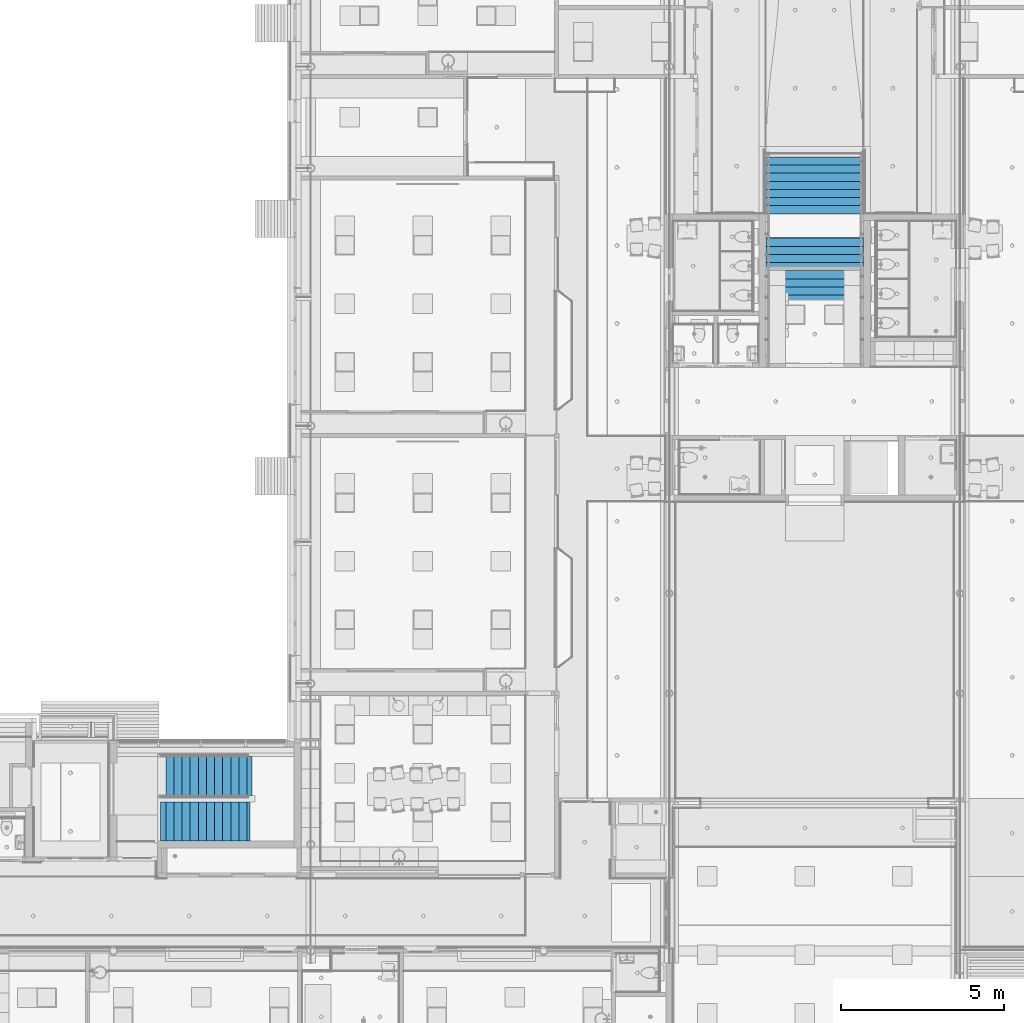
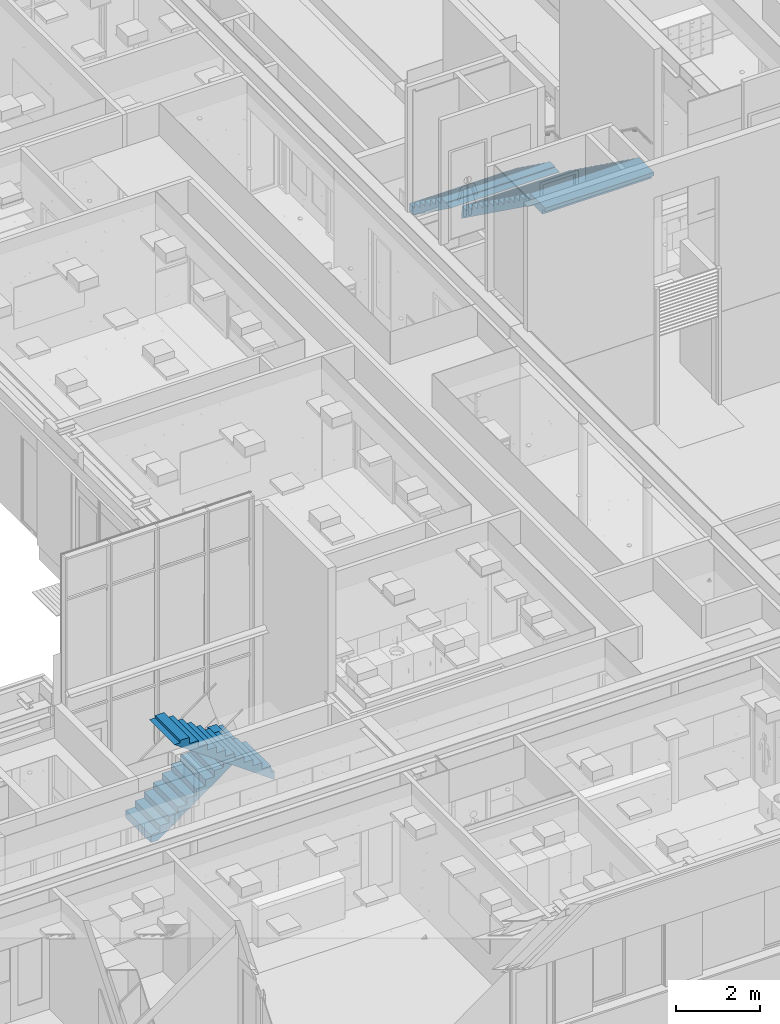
# One storey, part 86 of 347: 4 stair flights, 2 elements without a shape of their own.
"""IFC2X3 building model written with IfcOpenShell, lengths in millimetres."""

from ifc_helpers import new_model, entity, si_unit, converted_unit, derived_unit, money_unit, direction, frame, origin_with_axes, place, context, subcontext, project, spatial, faceted_brep, material, type_object, element, aggregate, save


model = new_model("IFC2X3")

# Units and contexts
model_context = context("Model", 3, precision=0.01, world=origin_with_axes(), true_north=direction((0.0, 1.0)))
plan_context = context("Plan", 3, precision=0.01, world=origin_with_axes(), true_north=direction((0.0, 1.0)))
body_context = subcontext(model_context, "Body", "Model", "MODEL_VIEW")
ifc_project = project(units=[si_unit("LENGTHUNIT", "METRE", prefix="MILLI"), si_unit("AREAUNIT", "SQUARE_METRE"), si_unit("VOLUMEUNIT", "CUBIC_METRE"), converted_unit("PLANEANGLEUNIT", "DEGREE", entity("IfcPlaneAngleMeasure", 0.0174532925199), si_unit("PLANEANGLEUNIT", "RADIAN"), dimensions=[0, 0, 0, 0, 0, 0, 0]), money_unit("EUR"), converted_unit("TIMEUNIT", "Year", entity("IfcTimeMeasure", 31556926.0), si_unit("TIMEUNIT", "SECOND"), dimensions=[0, 0, 1, 0, 0, 0, 0]), si_unit("MASSUNIT", "GRAM", prefix="KILO"), si_unit("THERMODYNAMICTEMPERATUREUNIT", "DEGREE_CELSIUS"), si_unit("LUMINOUSINTENSITYUNIT", "LUMEN"), si_unit("ENERGYUNIT", "JOULE", prefix="MEGA"), derived_unit("THERMALCONDUCTANCEUNIT", [(si_unit("POWERUNIT", "WATT"), 1), (si_unit("LENGTHUNIT", "METRE"), -1), (si_unit("THERMODYNAMICTEMPERATUREUNIT", "KELVIN"), -1)]), derived_unit("SPECIFICHEATCAPACITYUNIT", [(si_unit("ENERGYUNIT", "JOULE"), 1), (si_unit("MASSUNIT", "GRAM", prefix="KILO"), -1), (si_unit("THERMODYNAMICTEMPERATUREUNIT", "KELVIN"), -1)]), derived_unit("MASSDENSITYUNIT", [(si_unit("MASSUNIT", "GRAM", prefix="KILO"), 1), (si_unit("VOLUMEUNIT", "CUBIC_METRE"), -1)])], contexts=[model_context, plan_context])

# Site, building, storey
site_placement = place(None, origin_with_axes())
site = spatial("IfcSite", under=ifc_project, at=site_placement, Name="Site", CompositionType="ELEMENT")
building_placement = place(site_placement, origin_with_axes())
building = spatial("IfcBuilding", under=site, at=building_placement, Name="Naam gebouw", CompositionType="ELEMENT")
storey_placement = place(building_placement, origin_with_axes())
storey = spatial("IfcBuildingStorey", under=building, at=storey_placement, Name="begane grond", CompositionType="ELEMENT", Elevation=0.0)

# Stair, stair flights
stair_1_placement = place(storey_placement, frame((20115.0, 16900.0, 0.0), z_axis=(0.0, 0.0, 1.0), x_axis=(1.0, 0.0, 0.0)))
stair_1 = element("IfcStair", 1, at=stair_1_placement, inside=storey, Name="24_Trap-x", ShapeType="NOTDEFINED")
ifc_material = material(Name="Beton gewapend prefab")
stair_flight_type = type_object("IfcStairFlightType", Name="IfcStairFlight", PredefinedType="NOTDEFINED")
stair_flight_1_placement = place(stair_1_placement, origin_with_axes())
stair_flight_1 = element("IfcStairFlight", 2, at=stair_flight_1_placement, type_object=stair_flight_type, material=ifc_material, Name="24_Trapconstructie-x", context=body_context, shape_type="Brep", body=[
    faceted_brep([(2500.0, 0.0, 1730.0), (2500.0, 1200.0, 1730.0), (2500.0, 1200.0, 1800.0), (2500.0, 0.0, 1800.0), (2659.49314112, 0.0, 1730.0), (2659.49314112, 1200.0, 1730.0), (2500.0, 1200.0, 1615.16493839), (2416.66666667, 1200.0, 1555.16493839), (2333.33333333, 1200.0, 1495.16493839), (2250.0, 1200.0, 1435.16493839), (2166.66666667, 1200.0, 1375.16493839), (2083.33333333, 1200.0, 1315.16493839), (2000.0, 1200.0, 1255.16493839), (1916.66666667, 1200.0, 1195.16493839), (1833.33333333, 1200.0, 1135.16493839), (1750.0, 1200.0, 1075.16493839), (1666.66666667, 1200.0, 1015.16493839), (1583.33333333, 1200.0, 955.164938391), (1500.0, 1200.0, 895.164938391), (1416.66666667, 1200.0, 835.164938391), (1333.33333333, 1200.0, 775.164938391), (1250.0, 1200.0, 715.164938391), (1166.66666667, 1200.0, 655.164938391), (1083.33333333, 1200.0, 595.164938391), (1000.0, 1200.0, 535.164938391), (916.666666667, 1200.0, 475.164938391), (833.333333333, 1200.0, 415.164938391), (750.0, 1200.0, 355.164938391), (666.666666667, 1200.0, 295.164938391), (583.333333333, 1200.0, 235.164938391), (500.0, 1200.0, 175.164938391), (416.666666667, 1200.0, 115.164938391), (333.333333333, 1200.0, 55.164938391), (250.0, 1200.0, -4.83506160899), (187.270918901, 1200.0, -50.0), (0.0, 1200.0, -50.0), (0.0, 1200.0, 180.0), (250.0, 1200.0, 180.0), (250.0, 1200.0, 360.0), (500.0, 1200.0, 360.0), (500.0, 1200.0, 540.0), (750.0, 1200.0, 540.0), (750.0, 1200.0, 720.0), (1000.0, 1200.0, 720.0), (1000.0, 1200.0, 900.0), (1250.0, 1200.0, 900.0), (1250.0, 1200.0, 1080.0), (1500.0, 1200.0, 1080.0), (1500.0, 1200.0, 1260.0), (1750.0, 1200.0, 1260.0), (1750.0, 1200.0, 1440.0), (2000.0, 1200.0, 1440.0), (2000.0, 1200.0, 1620.0), (2250.0, 1200.0, 1620.0), (2250.0, 1200.0, 1800.0), (2250.0, 0.0, 1800.0), (2250.0, 0.0, 1620.0), (2000.0, 0.0, 1620.0), (2000.0, 0.0, 1440.0), (1750.0, 0.0, 1440.0), (1750.0, 0.0, 1260.0), (1500.0, 0.0, 1260.0), (1500.0, 0.0, 1080.0), (1250.0, 0.0, 1080.0), (1250.0, 0.0, 900.0), (1000.0, 0.0, 900.0), (1000.0, 0.0, 720.0), (750.0, 0.0, 720.0), (750.0, 0.0, 540.0), (500.0, 0.0, 540.0), (500.0, 0.0, 360.0), (250.0, 0.0, 360.0), (250.0, 0.0, 180.0), (0.0, 0.0, 180.0), (0.0, 0.0, -50.0), (187.270918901, 0.0, -50.0), (250.0, 0.0, -4.83506160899), (333.333333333, 0.0, 55.164938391), (416.666666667, 0.0, 115.164938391), (500.0, 0.0, 175.164938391), (583.333333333, 0.0, 235.164938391), (666.666666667, 0.0, 295.164938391), (750.0, 0.0, 355.164938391), (833.333333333, 0.0, 415.164938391), (916.666666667, 0.0, 475.164938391), (1000.0, 0.0, 535.164938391), (1083.33333333, 0.0, 595.164938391), (1166.66666667, 0.0, 655.164938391), (1250.0, 0.0, 715.164938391), (1333.33333333, 0.0, 775.164938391), (1416.66666667, 0.0, 835.164938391), (1500.0, 0.0, 895.164938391), (1583.33333333, 0.0, 955.164938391), (1666.66666667, 0.0, 1015.16493839), (1750.0, 0.0, 1075.16493839), (1833.33333333, 0.0, 1135.16493839), (1916.66666667, 0.0, 1195.16493839), (2000.0, 0.0, 1255.16493839), (2083.33333333, 0.0, 1315.16493839), (2166.66666667, 0.0, 1375.16493839), (2250.0, 0.0, 1435.16493839), (2333.33333333, 0.0, 1495.16493839), (2416.66666667, 0.0, 1555.16493839), (2500.0, 0.0, 1615.16493839)], [[[0, 1, 2, 3]], [[1, 0, 4, 5]], [[6, 7, 8, 9, 10, 11, 12, 13, 14, 15, 16, 17, 18, 19, 20, 21, 22, 23, 24, 25, 26, 27, 28, 29, 30, 31, 32, 33, 34, 35, 36, 37, 38, 39, 40, 41, 42, 43, 44, 45, 46, 47, 48, 49, 50, 51, 52, 53, 54, 2, 1, 5]], [[55, 3, 2, 54]], [[0, 3, 55, 56, 57, 58, 59, 60, 61, 62, 63, 64, 65, 66, 67, 68, 69, 70, 71, 72, 73, 74, 75, 76, 77, 78, 79, 80, 81, 82, 83, 84, 85, 86, 87, 88, 89, 90, 91, 92, 93, 94, 95, 96, 97, 98, 99, 100, 101, 102, 103, 4]], [[103, 102, 7, 6, 5, 4]], [[101, 8, 7, 102]], [[100, 9, 8, 101]], [[99, 10, 9, 100]], [[98, 11, 10, 99]], [[97, 12, 11, 98]], [[96, 13, 12, 97]], [[95, 14, 13, 96]], [[94, 15, 14, 95]], [[93, 16, 15, 94]], [[92, 17, 16, 93]], [[91, 18, 17, 92]], [[90, 19, 18, 91]], [[89, 20, 19, 90]], [[88, 21, 20, 89]], [[87, 22, 21, 88]], [[86, 23, 22, 87]], [[85, 24, 23, 86]], [[84, 25, 24, 85]], [[83, 26, 25, 84]], [[82, 27, 26, 83]], [[81, 28, 27, 82]], [[80, 29, 28, 81]], [[79, 30, 29, 80]], [[78, 31, 30, 79]], [[77, 32, 31, 78]], [[76, 33, 32, 77]], [[75, 34, 33, 76]], [[74, 35, 34, 75]], [[35, 74, 73, 36]], [[36, 73, 72, 37]], [[71, 38, 37, 72]], [[38, 71, 70, 39]], [[69, 40, 39, 70]], [[40, 69, 68, 41]], [[67, 42, 41, 68]], [[42, 67, 66, 43]], [[65, 44, 43, 66]], [[44, 65, 64, 45]], [[63, 46, 45, 64]], [[46, 63, 62, 47]], [[61, 48, 47, 62]], [[48, 61, 60, 49]], [[59, 50, 49, 60]], [[50, 59, 58, 51]], [[57, 52, 51, 58]], [[52, 57, 56, 53]], [[55, 54, 53, 56]]]),
])
stair_flight_2_placement = place(stair_1_placement, origin_with_axes())
stair_flight_2 = element("IfcStairFlight", 3, at=stair_flight_2_placement, type_object=stair_flight_type, material=ifc_material, Name="24_Trapconstructie-x", context=body_context, shape_type="Brep", body=[
    faceted_brep([(0.0, -200.0, 3710.0), (-2.86102519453e-06, -1400.0, 3710.0), (-2.86102519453e-06, -1400.0, 3780.0), (0.0, -200.0, 3780.0), (-159.493141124, -199.99999962, 3710.0), (-159.493143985, -1399.99999962, 3710.0), (-2.86102497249e-06, -1400.0, 3595.16493839), (83.3333304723, -1400.0000002, 3535.16493839), (166.666663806, -1400.0000004, 3475.16493839), (249.999997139, -1400.0000006, 3415.16493839), (333.333330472, -1400.00000079, 3355.16493839), (416.666663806, -1400.00000099, 3295.16493839), (499.999997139, -1400.00000119, 3235.16493839), (583.333330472, -1400.00000139, 3175.16493839), (666.666663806, -1400.00000159, 3115.16493839), (749.999997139, -1400.00000179, 3055.16493839), (833.333330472, -1400.00000199, 2995.16493839), (916.666663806, -1400.00000219, 2935.16493839), (999.999997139, -1400.00000238, 2875.16493839), (1083.33333047, -1400.00000258, 2815.16493839), (1166.66666381, -1400.00000278, 2755.16493839), (1249.99999714, -1400.00000298, 2695.16493839), (1333.33333047, -1400.00000318, 2635.16493839), (1416.66666381, -1400.00000338, 2575.16493839), (1499.99999714, -1400.00000358, 2515.16493839), (1583.33333047, -1400.00000377, 2455.16493839), (1666.66666381, -1400.00000397, 2395.16493839), (1749.99999714, -1400.00000417, 2335.16493839), (1833.33333047, -1400.00000437, 2275.16493839), (1916.66666381, -1400.00000457, 2215.16493839), (1999.99999714, -1400.00000477, 2155.16493839), (2083.33333047, -1400.00000497, 2095.16493839), (2166.66666381, -1400.00000517, 2035.16493839), (2249.99999714, -1400.00000536, 1975.16493839), (2333.33333047, -1400.00000556, 1915.16493839), (2416.66666381, -1400.00000576, 1855.16493839), (2499.99999714, -1400.00000596, 1795.16493839), (2590.50685602, -1400.00000618, 1730.0), (2590.50685602, -1400.00000618, 1980.0), (2499.99999714, -1400.00000596, 1980.0), (2499.99999714, -1400.00000596, 2160.0), (2249.99999714, -1400.00000536, 2160.0), (2249.99999714, -1400.00000536, 2340.0), (1999.99999714, -1400.00000477, 2340.0), (1999.99999714, -1400.00000477, 2520.0), (1749.99999714, -1400.00000417, 2520.0), (1749.99999714, -1400.00000417, 2700.0), (1499.99999714, -1400.00000358, 2700.0), (1499.99999714, -1400.00000358, 2880.0), (1249.99999714, -1400.00000298, 2880.0), (1249.99999714, -1400.00000298, 3060.0), (999.999997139, -1400.00000238, 3060.0), (999.999997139, -1400.00000238, 3240.0), (749.999997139, -1400.00000179, 3240.0), (749.999997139, -1400.00000179, 3420.0), (499.999997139, -1400.00000119, 3420.0), (499.999997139, -1400.00000119, 3600.0), (249.999997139, -1400.0000006, 3600.0), (249.999997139, -1400.0000006, 3780.0), (250.0, -200.000000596, 3780.0), (250.0, -200.000000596, 3600.0), (500.0, -200.000001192, 3600.0), (500.0, -200.000001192, 3420.0), (750.0, -200.000001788, 3420.0), (750.0, -200.000001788, 3240.0), (1000.0, -200.000002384, 3240.0), (1000.0, -200.000002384, 3060.0), (1250.0, -200.00000298, 3060.0), (1250.0, -200.00000298, 2880.0), (1500.0, -200.000003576, 2880.0), (1500.0, -200.000003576, 2700.0), (1750.0, -200.000004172, 2700.0), (1750.0, -200.000004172, 2520.0), (2000.0, -200.000004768, 2520.0), (2000.0, -200.000004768, 2340.0), (2250.0, -200.000005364, 2340.0), (2250.0, -200.000005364, 2160.0), (2500.0, -200.00000596, 2160.0), (2500.0, -200.00000596, 1980.0), (2590.50685888, -200.000006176, 1980.0), (2590.50685888, -200.000006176, 1730.0), (2500.0, -200.00000596, 1795.16493839), (2416.66666667, -200.000005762, 1855.16493839), (2333.33333333, -200.000005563, 1915.16493839), (2250.0, -200.000005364, 1975.16493839), (2166.66666667, -200.000005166, 2035.16493839), (2083.33333333, -200.000004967, 2095.16493839), (2000.0, -200.000004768, 2155.16493839), (1916.66666667, -200.00000457, 2215.16493839), (1833.33333333, -200.000004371, 2275.16493839), (1750.0, -200.000004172, 2335.16493839), (1666.66666667, -200.000003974, 2395.16493839), (1583.33333333, -200.000003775, 2455.16493839), (1500.0, -200.000003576, 2515.16493839), (1416.66666667, -200.000003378, 2575.16493839), (1333.33333333, -200.000003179, 2635.16493839), (1250.0, -200.00000298, 2695.16493839), (1166.66666667, -200.000002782, 2755.16493839), (1083.33333333, -200.000002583, 2815.16493839), (1000.0, -200.000002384, 2875.16493839), (916.666666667, -200.000002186, 2935.16493839), (833.333333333, -200.000001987, 2995.16493839), (750.0, -200.000001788, 3055.16493839), (666.666666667, -200.000001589, 3115.16493839), (583.333333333, -200.000001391, 3175.16493839), (500.0, -200.000001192, 3235.16493839), (416.666666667, -200.000000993, 3295.16493839), (333.333333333, -200.000000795, 3355.16493839), (250.0, -200.000000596, 3415.16493839), (166.666666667, -200.000000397, 3475.16493839), (83.3333333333, -200.000000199, 3535.16493839), (0.0, -200.0, 3595.16493839)], [[[0, 1, 2, 3]], [[1, 0, 4, 5]], [[6, 7, 8, 9, 10, 11, 12, 13, 14, 15, 16, 17, 18, 19, 20, 21, 22, 23, 24, 25, 26, 27, 28, 29, 30, 31, 32, 33, 34, 35, 36, 37, 38, 39, 40, 41, 42, 43, 44, 45, 46, 47, 48, 49, 50, 51, 52, 53, 54, 55, 56, 57, 58, 2, 1, 5]], [[58, 59, 3, 2]], [[0, 3, 59, 60, 61, 62, 63, 64, 65, 66, 67, 68, 69, 70, 71, 72, 73, 74, 75, 76, 77, 78, 79, 80, 81, 82, 83, 84, 85, 86, 87, 88, 89, 90, 91, 92, 93, 94, 95, 96, 97, 98, 99, 100, 101, 102, 103, 104, 105, 106, 107, 108, 109, 110, 111, 4]], [[111, 110, 7, 6, 5, 4]], [[8, 7, 110, 109]], [[9, 8, 109, 108]], [[10, 9, 108, 107]], [[11, 10, 107, 106]], [[12, 11, 106, 105]], [[13, 12, 105, 104]], [[14, 13, 104, 103]], [[15, 14, 103, 102]], [[16, 15, 102, 101]], [[17, 16, 101, 100]], [[18, 17, 100, 99]], [[19, 18, 99, 98]], [[20, 19, 98, 97]], [[21, 20, 97, 96]], [[22, 21, 96, 95]], [[23, 22, 95, 94]], [[24, 23, 94, 93]], [[25, 24, 93, 92]], [[26, 25, 92, 91]], [[27, 26, 91, 90]], [[28, 27, 90, 89]], [[29, 28, 89, 88]], [[30, 29, 88, 87]], [[31, 30, 87, 86]], [[32, 31, 86, 85]], [[33, 32, 85, 84]], [[34, 33, 84, 83]], [[35, 34, 83, 82]], [[82, 81, 36, 35]], [[37, 36, 81, 80]], [[37, 80, 79, 38]], [[79, 78, 39, 38]], [[40, 39, 78, 77]], [[41, 40, 77, 76]], [[76, 75, 42, 41]], [[43, 42, 75, 74]], [[74, 73, 44, 43]], [[45, 44, 73, 72]], [[72, 71, 46, 45]], [[47, 46, 71, 70]], [[70, 69, 48, 47]], [[49, 48, 69, 68]], [[68, 67, 50, 49]], [[51, 50, 67, 66]], [[66, 65, 52, 51]], [[53, 52, 65, 64]], [[64, 63, 54, 53]], [[55, 54, 63, 62]], [[62, 61, 56, 55]], [[57, 56, 61, 60]], [[60, 59, 58, 57]]]),
])
aggregate(stair_1, [stair_flight_1, stair_flight_2])

stair_2_placement = place(storey_placement, frame((40075.0, 36550.0, 0.0), z_axis=(0.0, 0.0, 1.0), x_axis=(1.0, 0.0, 0.0)))
stair_2 = element("IfcStair", 4, at=stair_2_placement, inside=storey, Name="24_Trap-x", ShapeType="NOTDEFINED")
stair_flight_3_placement = place(stair_2_placement, origin_with_axes())
stair_flight_3 = element("IfcStairFlight", 5, at=stair_flight_3_placement, type_object=stair_flight_type, material=ifc_material, Name="24_Trapconstructie-x", context=body_context, shape_type="Brep", body=[
    faceted_brep([(-1500.0, -1750.0, 1240.0), (1500.0, -1750.0, 1240.0), (1500.0, -1750.0, 1260.0), (-1500.0, -1750.0, 1260.0), (-1500.0, -1978.93758557, 1240.0), (1500.0, -1978.93758557, 1240.0), (1500.0, -1750.0, 1075.16493839), (1500.0, -1666.66666667, 1015.16493839), (1500.0, -1583.33333333, 955.164938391), (1500.0, -1500.0, 895.164938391), (1500.0, -1416.66666667, 835.164938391), (1500.0, -1333.33333333, 775.164938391), (1500.0, -1250.0, 715.164938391), (1500.0, -1166.66666667, 655.164938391), (1500.0, -1083.33333333, 595.164938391), (1500.0, -1000.0, 535.164938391), (1500.0, -916.666666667, 475.164938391), (1500.0, -833.333333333, 415.164938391), (1500.0, -750.0, 355.164938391), (1500.0, -666.666666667, 295.164938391), (1500.0, -583.333333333, 235.164938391), (1500.0, -500.0, 175.164938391), (1500.0, -416.666666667, 115.164938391), (1500.0, -333.333333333, 55.164938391), (1500.0, -250.0, -4.83506160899), (1500.0, -187.270918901, -50.0), (1500.0, 0.0, -50.0), (1500.0, 0.0, 180.0), (1500.0, -250.0, 180.0), (1500.0, -250.0, 360.0), (1500.0, -500.0, 360.0), (1500.0, -500.0, 540.0), (1500.0, -750.0, 540.0), (1500.0, -750.0, 720.0), (1500.0, -1000.0, 720.0), (1500.0, -1000.0, 900.0), (1500.0, -1250.0, 900.0), (1500.0, -1250.0, 1080.0), (1500.0, -1500.0, 1080.0), (1500.0, -1500.0, 1260.0), (-1500.0, -1500.0, 1260.0), (-1500.0, -1500.0, 1080.0), (-1500.0, -1250.0, 1080.0), (-1500.0, -1250.0, 900.0), (-1500.0, -1000.0, 900.0), (-1500.0, -1000.0, 720.0), (-1500.0, -750.0, 720.0), (-1500.0, -750.0, 540.0), (-1500.0, -500.0, 540.0), (-1500.0, -500.0, 360.0), (-1500.0, -250.0, 360.0), (-1500.0, -250.0, 180.0), (-1500.0, 0.0, 180.0), (-1500.0, 0.0, -50.0), (-1500.0, -187.270918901, -50.0), (-1500.0, -250.0, -4.83506160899), (-1500.0, -333.333333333, 55.164938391), (-1500.0, -416.666666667, 115.164938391), (-1500.0, -500.0, 175.164938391), (-1500.0, -583.333333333, 235.164938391), (-1500.0, -666.666666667, 295.164938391), (-1500.0, -750.0, 355.164938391), (-1500.0, -833.333333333, 415.164938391), (-1500.0, -916.666666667, 475.164938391), (-1500.0, -1000.0, 535.164938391), (-1500.0, -1083.33333333, 595.164938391), (-1500.0, -1166.66666667, 655.164938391), (-1500.0, -1250.0, 715.164938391), (-1500.0, -1333.33333333, 775.164938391), (-1500.0, -1416.66666667, 835.164938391), (-1500.0, -1500.0, 895.164938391), (-1500.0, -1583.33333333, 955.164938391), (-1500.0, -1666.66666667, 1015.16493839), (-1500.0, -1750.0, 1075.16493839)], [[[0, 1, 2, 3]], [[1, 0, 4, 5]], [[6, 7, 8, 9, 10, 11, 12, 13, 14, 15, 16, 17, 18, 19, 20, 21, 22, 23, 24, 25, 26, 27, 28, 29, 30, 31, 32, 33, 34, 35, 36, 37, 38, 39, 2, 1, 5]], [[40, 3, 2, 39]], [[0, 3, 40, 41, 42, 43, 44, 45, 46, 47, 48, 49, 50, 51, 52, 53, 54, 55, 56, 57, 58, 59, 60, 61, 62, 63, 64, 65, 66, 67, 68, 69, 70, 71, 72, 73, 4]], [[73, 72, 7, 6, 5, 4]], [[71, 8, 7, 72]], [[70, 9, 8, 71]], [[69, 10, 9, 70]], [[68, 11, 10, 69]], [[67, 12, 11, 68]], [[66, 13, 12, 67]], [[65, 14, 13, 66]], [[64, 15, 14, 65]], [[63, 16, 15, 64]], [[62, 17, 16, 63]], [[61, 18, 17, 62]], [[60, 19, 18, 61]], [[59, 20, 19, 60]], [[58, 21, 20, 59]], [[57, 22, 21, 58]], [[56, 23, 22, 57]], [[55, 24, 23, 56]], [[54, 25, 24, 55]], [[53, 26, 25, 54]], [[26, 53, 52, 27]], [[27, 52, 51, 28]], [[50, 29, 28, 51]], [[29, 50, 49, 30]], [[48, 31, 30, 49]], [[31, 48, 47, 32]], [[46, 33, 32, 47]], [[33, 46, 45, 34]], [[44, 35, 34, 45]], [[35, 44, 43, 36]], [[42, 37, 36, 43]], [[37, 42, 41, 38]], [[40, 39, 38, 41]]]),
])
stair_flight_4_placement = place(stair_2_placement, origin_with_axes())
stair_flight_4 = element("IfcStairFlight", 6, at=stair_flight_4_placement, type_object=stair_flight_type, material=ifc_material, Name="24_Trapconstructie-x", context=body_context, shape_type="Brep", body=[
    faceted_brep([(1500.0, -6350.0, 3860.0), (1500.0, -6350.0, 3710.0), (1500.0, -5909.49314112, 3710.0), (1500.0, -5833.33333333, 3655.16493839), (1500.0, -5750.0, 3595.16493839), (1500.0, -5666.66666667, 3535.16493839), (1500.0, -5583.33333333, 3475.16493839), (1500.0, -5500.0, 3415.16493839), (1500.0, -5416.66666667, 3355.16493839), (1500.0, -5333.33333333, 3295.16493839), (1500.0, -5250.0, 3235.16493839), (1500.0, -5166.66666667, 3175.16493839), (1500.0, -5083.33333333, 3115.16493839), (1500.0, -5000.0, 3055.16493839), (1500.0, -4916.66666667, 2995.16493839), (1500.0, -4833.33333333, 2935.16493839), (1500.0, -4750.0, 2875.16493839), (1500.0, -4666.66666667, 2815.16493839), (1500.0, -4583.33333333, 2755.16493839), (1500.0, -4500.0, 2695.16493839), (1500.0, -4416.66666667, 2635.16493839), (1500.0, -4333.33333333, 2575.16493839), (1500.0, -4250.0, 2515.16493839), (1500.0, -4166.66666667, 2455.16493839), (1500.0, -4083.33333333, 2395.16493839), (1500.0, -4000.0, 2335.16493839), (1500.0, -3916.66666667, 2275.16493839), (1500.0, -3833.33333333, 2215.16493839), (1500.0, -3750.0, 2155.16493839), (1500.0, -3666.66666667, 2095.16493839), (1500.0, -3583.33333333, 2035.16493839), (1500.0, -3500.0, 1975.16493839), (1500.0, -3416.66666667, 1915.16493839), (1500.0, -3333.33333333, 1855.16493839), (1500.0, -3250.0, 1795.16493839), (1500.0, -3166.66666667, 1735.16493839), (1500.0, -3083.33333333, 1675.16493839), (1500.0, -3000.0, 1615.16493839), (1500.0, -2916.66666667, 1555.16493839), (1500.0, -2833.33333333, 1495.16493839), (1500.0, -2750.0, 1435.16493839), (1500.0, -2666.66666667, 1375.16493839), (1500.0, -2583.33333333, 1315.16493839), (1500.0, -2500.0, 1255.16493839), (1500.0, -2478.93758557, 1240.0), (1500.0, -2478.93758557, 1440.0), (1500.0, -2500.0, 1440.0), (1500.0, -2500.0, 1620.0), (1500.0, -2750.0, 1620.0), (1500.0, -2750.0, 1800.0), (1500.0, -3000.0, 1800.0), (1500.0, -3000.0, 1980.0), (1500.0, -3250.0, 1980.0), (1500.0, -3250.0, 2160.0), (1500.0, -3500.0, 2160.0), (1500.0, -3500.0, 2340.0), (1500.0, -3750.0, 2340.0), (1500.0, -3750.0, 2520.0), (1500.0, -4000.0, 2520.0), (1500.0, -4000.0, 2700.0), (1500.0, -4250.0, 2700.0), (1500.0, -4250.0, 2880.0), (1500.0, -4500.0, 2880.0), (1500.0, -4500.0, 3060.0), (1500.0, -4750.0, 3060.0), (1500.0, -4750.0, 3240.0), (1500.0, -5000.0, 3240.0), (1500.0, -5000.0, 3420.0), (1500.0, -5250.0, 3420.0), (1500.0, -5250.0, 3600.0), (1500.0, -5500.0, 3600.0), (1500.0, -5500.0, 3780.0), (1500.0, -5750.0, 3780.0), (1500.0, -5750.0, 3960.0), (1500.0, -6475.0, 3960.0), (1500.0, -6475.0, 3860.0), (-1500.0, -6350.0, 3860.0), (-1500.0, -6350.0, 3710.0), (-1500.0, -5909.49314112, 3710.0), (-1500.0, -5833.33333333, 3655.16493839), (-1500.0, -5750.0, 3595.16493839), (-1500.0, -5666.66666667, 3535.16493839), (-1500.0, -5583.33333333, 3475.16493839), (-1500.0, -5500.0, 3415.16493839), (-1500.0, -5416.66666667, 3355.16493839), (-1500.0, -5333.33333333, 3295.16493839), (-1500.0, -5250.0, 3235.16493839), (-1500.0, -5166.66666667, 3175.16493839), (-1500.0, -5083.33333333, 3115.16493839), (-1500.0, -5000.0, 3055.16493839), (-1500.0, -4916.66666667, 2995.16493839), (-1500.0, -4833.33333333, 2935.16493839), (-1500.0, -4750.0, 2875.16493839), (-1500.0, -4666.66666667, 2815.16493839), (-1500.0, -4583.33333333, 2755.16493839), (-1500.0, -4500.0, 2695.16493839), (-1500.0, -4416.66666667, 2635.16493839), (-1500.0, -4333.33333333, 2575.16493839), (-1500.0, -4250.0, 2515.16493839), (-1500.0, -4166.66666667, 2455.16493839), (-1500.0, -4083.33333333, 2395.16493839), (-1500.0, -4000.0, 2335.16493839), (-1500.0, -3916.66666667, 2275.16493839), (-1500.0, -3833.33333333, 2215.16493839), (-1500.0, -3750.0, 2155.16493839), (-1500.0, -3666.66666667, 2095.16493839), (-1500.0, -3583.33333333, 2035.16493839), (-1500.0, -3500.0, 1975.16493839), (-1500.0, -3416.66666667, 1915.16493839), (-1500.0, -3333.33333333, 1855.16493839), (-1500.0, -3250.0, 1795.16493839), (-1500.0, -3166.66666667, 1735.16493839), (-1500.0, -3083.33333333, 1675.16493839), (-1500.0, -3000.0, 1615.16493839), (-1500.0, -2916.66666667, 1555.16493839), (-1500.0, -2833.33333333, 1495.16493839), (-1500.0, -2750.0, 1435.16493839), (-1500.0, -2666.66666667, 1375.16493839), (-1500.0, -2583.33333333, 1315.16493839), (-1500.0, -2500.0, 1255.16493839), (-1500.0, -2478.93758557, 1240.0), (-1500.0, -2478.93758557, 1440.0), (-1500.0, -2500.0, 1440.0), (-1500.0, -2500.0, 1620.0), (-1500.0, -2750.0, 1620.0), (-1500.0, -2750.0, 1800.0), (-1500.0, -3000.0, 1800.0), (-1500.0, -3000.0, 1980.0), (-1500.0, -3250.0, 1980.0), (-1500.0, -3250.0, 2160.0), (-1500.0, -3500.0, 2160.0), (-1500.0, -3500.0, 2340.0), (-1500.0, -3750.0, 2340.0), (-1500.0, -3750.0, 2520.0), (-1500.0, -4000.0, 2520.0), (-1500.0, -4000.0, 2700.0), (-1500.0, -4250.0, 2700.0), (-1500.0, -4250.0, 2880.0), (-1500.0, -4500.0, 2880.0), (-1500.0, -4500.0, 3060.0), (-1500.0, -4750.0, 3060.0), (-1500.0, -4750.0, 3240.0), (-1500.0, -5000.0, 3240.0), (-1500.0, -5000.0, 3420.0), (-1500.0, -5250.0, 3420.0), (-1500.0, -5250.0, 3600.0), (-1500.0, -5500.0, 3600.0), (-1500.0, -5500.0, 3780.0), (-1500.0, -5750.0, 3780.0), (-1500.0, -5750.0, 3960.0), (-1500.0, -6475.0, 3960.0), (-1500.0, -6475.0, 3860.0)], [[[0, 1, 2, 3, 4, 5, 6, 7, 8, 9, 10, 11, 12, 13, 14, 15, 16, 17, 18, 19, 20, 21, 22, 23, 24, 25, 26, 27, 28, 29, 30, 31, 32, 33, 34, 35, 36, 37, 38, 39, 40, 41, 42, 43, 44, 45, 46, 47, 48, 49, 50, 51, 52, 53, 54, 55, 56, 57, 58, 59, 60, 61, 62, 63, 64, 65, 66, 67, 68, 69, 70, 71, 72, 73, 74, 75]], [[1, 0, 76, 77]], [[1, 77, 78, 2]], [[78, 79, 3, 2]], [[80, 4, 3, 79]], [[81, 5, 4, 80]], [[82, 6, 5, 81]], [[83, 7, 6, 82]], [[84, 8, 7, 83]], [[85, 9, 8, 84]], [[86, 10, 9, 85]], [[87, 11, 10, 86]], [[88, 12, 11, 87]], [[89, 13, 12, 88]], [[90, 14, 13, 89]], [[91, 15, 14, 90]], [[92, 16, 15, 91]], [[93, 17, 16, 92]], [[94, 18, 17, 93]], [[95, 19, 18, 94]], [[96, 20, 19, 95]], [[97, 21, 20, 96]], [[98, 22, 21, 97]], [[99, 23, 22, 98]], [[100, 24, 23, 99]], [[101, 25, 24, 100]], [[102, 26, 25, 101]], [[103, 27, 26, 102]], [[104, 28, 27, 103]], [[105, 29, 28, 104]], [[106, 30, 29, 105]], [[107, 31, 30, 106]], [[108, 32, 31, 107]], [[109, 33, 32, 108]], [[110, 34, 33, 109]], [[111, 35, 34, 110]], [[112, 36, 35, 111]], [[113, 37, 36, 112]], [[114, 38, 37, 113]], [[115, 39, 38, 114]], [[116, 40, 39, 115]], [[117, 41, 40, 116]], [[118, 42, 41, 117]], [[119, 43, 42, 118]], [[43, 119, 120, 44]], [[120, 121, 45, 44]], [[122, 46, 45, 121]], [[46, 122, 123, 47]], [[47, 123, 124, 48]], [[125, 49, 48, 124]], [[49, 125, 126, 50]], [[127, 51, 50, 126]], [[51, 127, 128, 52]], [[129, 53, 52, 128]], [[53, 129, 130, 54]], [[131, 55, 54, 130]], [[55, 131, 132, 56]], [[133, 57, 56, 132]], [[57, 133, 134, 58]], [[135, 59, 58, 134]], [[59, 135, 136, 60]], [[137, 61, 60, 136]], [[61, 137, 138, 62]], [[139, 63, 62, 138]], [[63, 139, 140, 64]], [[141, 65, 64, 140]], [[65, 141, 142, 66]], [[143, 67, 66, 142]], [[67, 143, 144, 68]], [[145, 69, 68, 144]], [[69, 145, 146, 70]], [[147, 71, 70, 146]], [[71, 147, 148, 72]], [[73, 72, 148, 149]], [[73, 149, 150, 74]], [[151, 75, 74, 150]], [[0, 75, 151, 76]], [[76, 151, 150, 149, 148, 147, 146, 145, 144, 143, 142, 141, 140, 139, 138, 137, 136, 135, 134, 133, 132, 131, 130, 129, 128, 127, 126, 125, 124, 123, 122, 121, 120, 119, 118, 117, 116, 115, 114, 113, 112, 111, 110, 109, 108, 107, 106, 105, 104, 103, 102, 101, 100, 99, 98, 97, 96, 95, 94, 93, 92, 91, 90, 89, 88, 87, 86, 85, 84, 83, 82, 81, 80, 79, 78, 77]]]),
])
aggregate(stair_2, [stair_flight_3, stair_flight_4])

save(model, "model.ifc")
